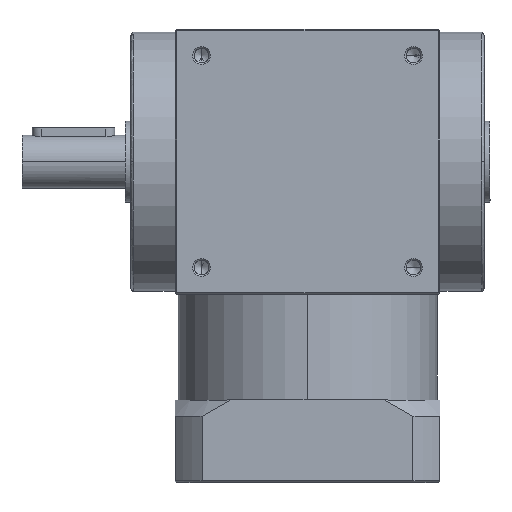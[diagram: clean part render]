
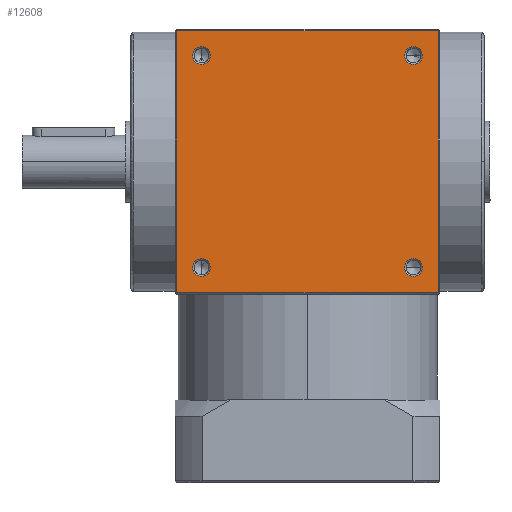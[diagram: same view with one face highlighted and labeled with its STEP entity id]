
A CAD part, top view. The second image highlights one B-rep face of the part: STEP entity #12608.
In plain terms, the highlighted planar face has unit normal (0, 0, 1).
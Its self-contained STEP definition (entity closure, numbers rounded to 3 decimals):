
#211 = ORIENTED_EDGE ( 'NONE', *, *, #272, .F. ) ;
#272 = EDGE_CURVE ( 'NONE', #1443, #8088, #10241, .T. ) ;
#334 = DIRECTION ( 'NONE',  ( 1., 0., 0. ) ) ;
#354 = DIRECTION ( 'NONE',  ( 0., 0., 1. ) ) ;
#388 = CARTESIAN_POINT ( 'NONE',  ( -36., -36., 45. ) ) ;
#551 = EDGE_CURVE ( 'NONE', #4967, #1845, #12814, .T. ) ;
#615 = DIRECTION ( 'NONE',  ( 1., 0., 0. ) ) ;
#656 = AXIS2_PLACEMENT_3D ( 'NONE', #388, #354, #334 ) ;
#717 = CARTESIAN_POINT ( 'NONE',  ( 36., -36., 45. ) ) ;
#960 = DIRECTION ( 'NONE',  ( 0., 1., 0. ) ) ;
#1012 = VERTEX_POINT ( 'NONE', #11410 ) ;
#1096 = VERTEX_POINT ( 'NONE', #9998 ) ;
#1255 = VERTEX_POINT ( 'NONE', #6772 ) ;
#1278 = VERTEX_POINT ( 'NONE', #6143 ) ;
#1443 = VERTEX_POINT ( 'NONE', #4304 ) ;
#1453 = AXIS2_PLACEMENT_3D ( 'NONE', #3801, #11307, #4918 ) ;
#1678 = EDGE_CURVE ( 'NONE', #8088, #1443, #8488, .T. ) ;
#1817 = CARTESIAN_POINT ( 'NONE',  ( -44.5, 44.5, 45. ) ) ;
#1845 = VERTEX_POINT ( 'NONE', #7083 ) ;
#1848 = DIRECTION ( 'NONE',  ( 1., 0., 0. ) ) ;
#2345 = EDGE_CURVE ( 'NONE', #13327, #6529, #12417, .T. ) ;
#2349 = LINE ( 'NONE', #10446, #11543 ) ;
#2403 = DIRECTION ( 'NONE',  ( 1., 0., 0. ) ) ;
#2423 = DIRECTION ( 'NONE',  ( 0., 0., 1. ) ) ;
#2438 = ORIENTED_EDGE ( 'NONE', *, *, #8214, .F. ) ;
#2457 = CARTESIAN_POINT ( 'NONE',  ( 36., -36., 45. ) ) ;
#2663 = AXIS2_PLACEMENT_3D ( 'NONE', #13533, #7182, #615 ) ;
#2868 = ORIENTED_EDGE ( 'NONE', *, *, #6670, .F. ) ;
#3189 = EDGE_CURVE ( 'NONE', #1255, #1096, #10413, .T. ) ;
#3519 = ORIENTED_EDGE ( 'NONE', *, *, #7947, .F. ) ;
#3741 = CARTESIAN_POINT ( 'NONE',  ( 44.5, -44.5, 45. ) ) ;
#3779 = DIRECTION ( 'NONE',  ( 0., -1., 0. ) ) ;
#3800 = ORIENTED_EDGE ( 'NONE', *, *, #2345, .F. ) ;
#3801 = CARTESIAN_POINT ( 'NONE',  ( 44.5, -44.5, 45. ) ) ;
#3989 = DIRECTION ( 'NONE',  ( 1., 0., 0. ) ) ;
#4191 = DIRECTION ( 'NONE',  ( 1., 0., 0. ) ) ;
#4203 = DIRECTION ( 'NONE',  ( 0., 0., 1. ) ) ;
#4218 = CARTESIAN_POINT ( 'NONE',  ( -44.5, -44.5, 45. ) ) ;
#4220 = CARTESIAN_POINT ( 'NONE',  ( -36., 36., 45. ) ) ;
#4304 = CARTESIAN_POINT ( 'NONE',  ( -39., -36., 45. ) ) ;
#4486 = ORIENTED_EDGE ( 'NONE', *, *, #8075, .F. ) ;
#4496 = EDGE_CURVE ( 'NONE', #1278, #1012, #9109, .T. ) ;
#4523 = EDGE_LOOP ( 'NONE', ( #3800, #3519 ) ) ;
#4803 = AXIS2_PLACEMENT_3D ( 'NONE', #2457, #2423, #2403 ) ;
#4918 = DIRECTION ( 'NONE',  ( -1., 0., 0. ) ) ;
#4967 = VERTEX_POINT ( 'NONE', #10753 ) ;
#5105 = EDGE_LOOP ( 'NONE', ( #9330, #6028, #2868, #2438 ) ) ;
#5225 = CARTESIAN_POINT ( 'NONE',  ( 44.5, -44.5, 45. ) ) ;
#5256 = AXIS2_PLACEMENT_3D ( 'NONE', #12714, #6331, #13759 ) ;
#5379 = EDGE_LOOP ( 'NONE', ( #11678, #211 ) ) ;
#5489 = DIRECTION ( 'NONE',  ( 1., 0., 0. ) ) ;
#5531 = DIRECTION ( 'NONE',  ( 0., 0., 1. ) ) ;
#5553 = CARTESIAN_POINT ( 'NONE',  ( -36., -36., 45. ) ) ;
#5568 = EDGE_LOOP ( 'NONE', ( #13482, #11276 ) ) ;
#5719 = EDGE_LOOP ( 'NONE', ( #4486, #7082 ) ) ;
#5876 = CARTESIAN_POINT ( 'NONE',  ( -36., 36., 45. ) ) ;
#5961 = PLANE ( 'NONE',  #1453 ) ;
#6028 = ORIENTED_EDGE ( 'NONE', *, *, #3189, .F. ) ;
#6143 = CARTESIAN_POINT ( 'NONE',  ( 33., 36., 45. ) ) ;
#6228 = FACE_BOUND ( 'NONE', #5568, .T. ) ;
#6331 = DIRECTION ( 'NONE',  ( 0., 0., 1. ) ) ;
#6345 = CARTESIAN_POINT ( 'NONE',  ( -44.5, -44.5, 45. ) ) ;
#6529 = VERTEX_POINT ( 'NONE', #12228 ) ;
#6618 = CARTESIAN_POINT ( 'NONE',  ( -33., 36., 45. ) ) ;
#6670 = EDGE_CURVE ( 'NONE', #9666, #1255, #2349, .T. ) ;
#6692 = FACE_BOUND ( 'NONE', #5379, .T. ) ;
#6763 = FACE_OUTER_BOUND ( 'NONE', #5105, .T. ) ;
#6772 = CARTESIAN_POINT ( 'NONE',  ( 44.5, 44.5, 45. ) ) ;
#6956 = DIRECTION ( 'NONE',  ( 1., 0., 0. ) ) ;
#7082 = ORIENTED_EDGE ( 'NONE', *, *, #551, .F. ) ;
#7083 = CARTESIAN_POINT ( 'NONE',  ( 39., -36., 45. ) ) ;
#7169 = AXIS2_PLACEMENT_3D ( 'NONE', #717, #8371, #1848 ) ;
#7182 = DIRECTION ( 'NONE',  ( 0., 0., 1. ) ) ;
#7553 = VECTOR ( 'NONE', #3779, 1000. ) ;
#7947 = EDGE_CURVE ( 'NONE', #6529, #13327, #11765, .T. ) ;
#8030 = AXIS2_PLACEMENT_3D ( 'NONE', #4220, #4203, #4191 ) ;
#8075 = EDGE_CURVE ( 'NONE', #1845, #4967, #12429, .T. ) ;
#8088 = VERTEX_POINT ( 'NONE', #13589 ) ;
#8157 = VERTEX_POINT ( 'NONE', #6345 ) ;
#8159 = AXIS2_PLACEMENT_3D ( 'NONE', #5876, #13322, #6956 ) ;
#8214 = EDGE_CURVE ( 'NONE', #8157, #9666, #10009, .T. ) ;
#8371 = DIRECTION ( 'NONE',  ( 0., 0., 1. ) ) ;
#8488 = CIRCLE ( 'NONE', #656, 3. ) ;
#8718 = EDGE_CURVE ( 'NONE', #1012, #1278, #10201, .T. ) ;
#9109 = CIRCLE ( 'NONE', #2663, 3. ) ;
#9330 = ORIENTED_EDGE ( 'NONE', *, *, #13001, .F. ) ;
#9666 = VERTEX_POINT ( 'NONE', #1817 ) ;
#9774 = VECTOR ( 'NONE', #960, 1000. ) ;
#9998 = CARTESIAN_POINT ( 'NONE',  ( 44.5, -44.5, 45. ) ) ;
#10009 = LINE ( 'NONE', #4218, #9774 ) ;
#10201 = CIRCLE ( 'NONE', #5256, 3. ) ;
#10241 = CIRCLE ( 'NONE', #11799, 3. ) ;
#10413 = LINE ( 'NONE', #5225, #7553 ) ;
#10446 = CARTESIAN_POINT ( 'NONE',  ( 44.5, 44.5, 45. ) ) ;
#10735 = FACE_BOUND ( 'NONE', #4523, .T. ) ;
#10753 = CARTESIAN_POINT ( 'NONE',  ( 33., -36., 45. ) ) ;
#11173 = FACE_BOUND ( 'NONE', #5719, .T. ) ;
#11247 = DIRECTION ( 'NONE',  ( -1., 0., 0. ) ) ;
#11276 = ORIENTED_EDGE ( 'NONE', *, *, #4496, .F. ) ;
#11307 = DIRECTION ( 'NONE',  ( 0., 0., -1. ) ) ;
#11404 = LINE ( 'NONE', #3741, #11818 ) ;
#11410 = CARTESIAN_POINT ( 'NONE',  ( 39., 36., 45. ) ) ;
#11543 = VECTOR ( 'NONE', #3989, 1000. ) ;
#11678 = ORIENTED_EDGE ( 'NONE', *, *, #1678, .F. ) ;
#11765 = CIRCLE ( 'NONE', #8159, 3. ) ;
#11799 = AXIS2_PLACEMENT_3D ( 'NONE', #5553, #5531, #5489 ) ;
#11818 = VECTOR ( 'NONE', #11247, 1000. ) ;
#12228 = CARTESIAN_POINT ( 'NONE',  ( -39., 36., 45. ) ) ;
#12417 = CIRCLE ( 'NONE', #8030, 3. ) ;
#12429 = CIRCLE ( 'NONE', #7169, 3. ) ;
#12608 = ADVANCED_FACE ( 'NONE', ( #10735, #6228, #6692, #11173, #6763 ), #5961, .F. ) ;
#12714 = CARTESIAN_POINT ( 'NONE',  ( 36., 36., 45. ) ) ;
#12814 = CIRCLE ( 'NONE', #4803, 3. ) ;
#13001 = EDGE_CURVE ( 'NONE', #1096, #8157, #11404, .T. ) ;
#13322 = DIRECTION ( 'NONE',  ( 0., 0., 1. ) ) ;
#13327 = VERTEX_POINT ( 'NONE', #6618 ) ;
#13482 = ORIENTED_EDGE ( 'NONE', *, *, #8718, .F. ) ;
#13533 = CARTESIAN_POINT ( 'NONE',  ( 36., 36., 45. ) ) ;
#13589 = CARTESIAN_POINT ( 'NONE',  ( -33., -36., 45. ) ) ;
#13759 = DIRECTION ( 'NONE',  ( 1., 0., 0. ) ) ;
